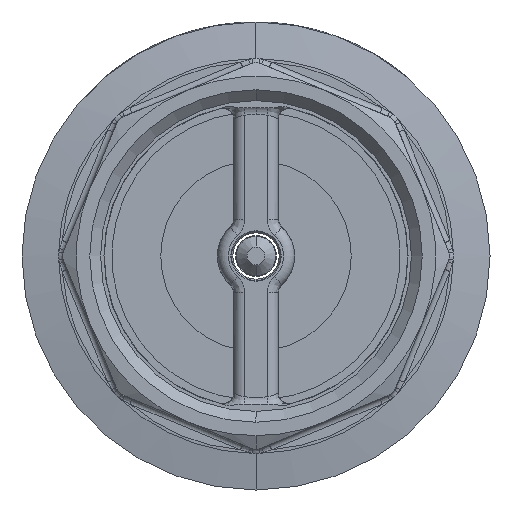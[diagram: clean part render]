
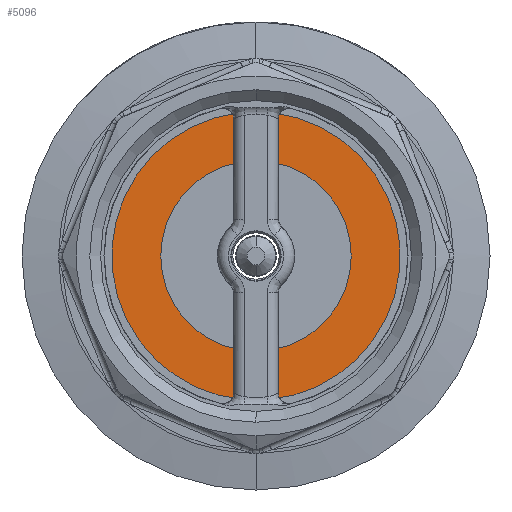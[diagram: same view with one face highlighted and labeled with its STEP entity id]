
A CAD part, front view. The second image highlights one B-rep face of the part: STEP entity #5096.
In plain terms, the highlighted planar face has unit normal (0, -1, 0).
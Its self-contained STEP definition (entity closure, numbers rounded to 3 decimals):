
#99 = DIRECTION ( 'NONE',  ( 0., 0., -1. ) ) ;
#187 = PLANE ( 'NONE',  #17828 ) ;
#490 = ORIENTED_EDGE ( 'NONE', *, *, #8079, .F. ) ;
#587 = CARTESIAN_POINT ( 'NONE',  ( 0., -56.983, 30.5 ) ) ;
#719 = CARTESIAN_POINT ( 'NONE',  ( -3.146, -56.983, 26.313 ) ) ;
#1333 = FACE_OUTER_BOUND ( 'NONE', #13119, .T. ) ;
#1477 = AXIS2_PLACEMENT_3D ( 'NONE', #13284, #4012, #14841 ) ;
#1662 = EDGE_CURVE ( 'NONE', #11630, #4541, #19303, .T. ) ;
#1697 = CARTESIAN_POINT ( 'NONE',  ( 0., -56.983, 17.5 ) ) ;
#1754 = DIRECTION ( 'NONE',  ( 0., -1., 0. ) ) ;
#2140 = DIRECTION ( 'NONE',  ( 0., 0., -1. ) ) ;
#2458 = VERTEX_POINT ( 'NONE', #1697 ) ;
#2484 = DIRECTION ( 'NONE',  ( 0., -1., 0. ) ) ;
#3840 = EDGE_CURVE ( 'NONE', #6249, #16778, #5966, .T. ) ;
#4012 = DIRECTION ( 'NONE',  ( 0., -1., 0. ) ) ;
#4541 = VERTEX_POINT ( 'NONE', #8472 ) ;
#4962 = FACE_BOUND ( 'NONE', #12950, .T. ) ;
#5096 = ADVANCED_FACE ( 'NONE', ( #1333, #4962 ), #187, .T. ) ;
#5808 = ORIENTED_EDGE ( 'NONE', *, *, #15041, .F. ) ;
#5966 = CIRCLE ( 'NONE', #10693, 1. ) ;
#6249 = VERTEX_POINT ( 'NONE', #9870 ) ;
#7593 = DIRECTION ( 'NONE',  ( 0., -1., 0. ) ) ;
#7835 = VERTEX_POINT ( 'NONE', #17208 ) ;
#8079 = EDGE_CURVE ( 'NONE', #2458, #7835, #8357, .T. ) ;
#8142 = CARTESIAN_POINT ( 'NONE',  ( 3.027, -56.983, 25.32 ) ) ;
#8357 = CIRCLE ( 'NONE', #19281, 17.5 ) ;
#8472 = CARTESIAN_POINT ( 'NONE',  ( 2.523, -56.983, 26.183 ) ) ;
#9361 = DIRECTION ( 'NONE',  ( 0., -1., 0. ) ) ;
#9471 = CARTESIAN_POINT ( 'NONE',  ( 17.5, -56.983, 0. ) ) ;
#9684 = DIRECTION ( 'NONE',  ( 0., 0., -1. ) ) ;
#9870 = CARTESIAN_POINT ( 'NONE',  ( -2.523, -56.983, 26.183 ) ) ;
#9911 = AXIS2_PLACEMENT_3D ( 'NONE', #8142, #18925, #9684 ) ;
#9984 = CIRCLE ( 'NONE', #15565, 26.5 ) ;
#10693 = AXIS2_PLACEMENT_3D ( 'NONE', #16850, #7593, #18393 ) ;
#11136 = CIRCLE ( 'NONE', #1477, 17.5 ) ;
#11399 = DIRECTION ( 'NONE',  ( 0., 1., 0. ) ) ;
#11630 = VERTEX_POINT ( 'NONE', #16361 ) ;
#11733 = CARTESIAN_POINT ( 'NONE',  ( 0., -56.983, 0. ) ) ;
#12574 = DIRECTION ( 'NONE',  ( 0., 0., -1. ) ) ;
#12950 = EDGE_LOOP ( 'NONE', ( #5808, #490 ) ) ;
#12967 = EDGE_CURVE ( 'NONE', #16778, #11630, #9984, .T. ) ;
#13047 = EDGE_CURVE ( 'NONE', #4541, #6249, #17210, .T. ) ;
#13119 = EDGE_LOOP ( 'NONE', ( #17514, #16350, #18152, #14176 ) ) ;
#13284 = CARTESIAN_POINT ( 'NONE',  ( 0., -56.983, 0. ) ) ;
#13297 = DIRECTION ( 'NONE',  ( 0., 0., -1. ) ) ;
#14176 = ORIENTED_EDGE ( 'NONE', *, *, #1662, .T. ) ;
#14841 = DIRECTION ( 'NONE',  ( 0., 0., -1. ) ) ;
#15041 = EDGE_CURVE ( 'NONE', #7835, #2458, #11136, .T. ) ;
#15565 = AXIS2_PLACEMENT_3D ( 'NONE', #18603, #9361, #99 ) ;
#16350 = ORIENTED_EDGE ( 'NONE', *, *, #3840, .T. ) ;
#16361 = CARTESIAN_POINT ( 'NONE',  ( 3.146, -56.983, 26.313 ) ) ;
#16617 = AXIS2_PLACEMENT_3D ( 'NONE', #587, #11399, #2140 ) ;
#16778 = VERTEX_POINT ( 'NONE', #719 ) ;
#16850 = CARTESIAN_POINT ( 'NONE',  ( -3.027, -56.983, 25.32 ) ) ;
#17208 = CARTESIAN_POINT ( 'NONE',  ( 0., -56.983, -17.5 ) ) ;
#17210 = CIRCLE ( 'NONE', #16617, 5. ) ;
#17514 = ORIENTED_EDGE ( 'NONE', *, *, #13047, .T. ) ;
#17828 = AXIS2_PLACEMENT_3D ( 'NONE', #9471, #1754, #12574 ) ;
#18152 = ORIENTED_EDGE ( 'NONE', *, *, #12967, .T. ) ;
#18393 = DIRECTION ( 'NONE',  ( 0., 0., -1. ) ) ;
#18603 = CARTESIAN_POINT ( 'NONE',  ( 0., -56.983, 0. ) ) ;
#18925 = DIRECTION ( 'NONE',  ( 0., -1., 0. ) ) ;
#19281 = AXIS2_PLACEMENT_3D ( 'NONE', #11733, #2484, #13297 ) ;
#19303 = CIRCLE ( 'NONE', #9911, 1. ) ;
